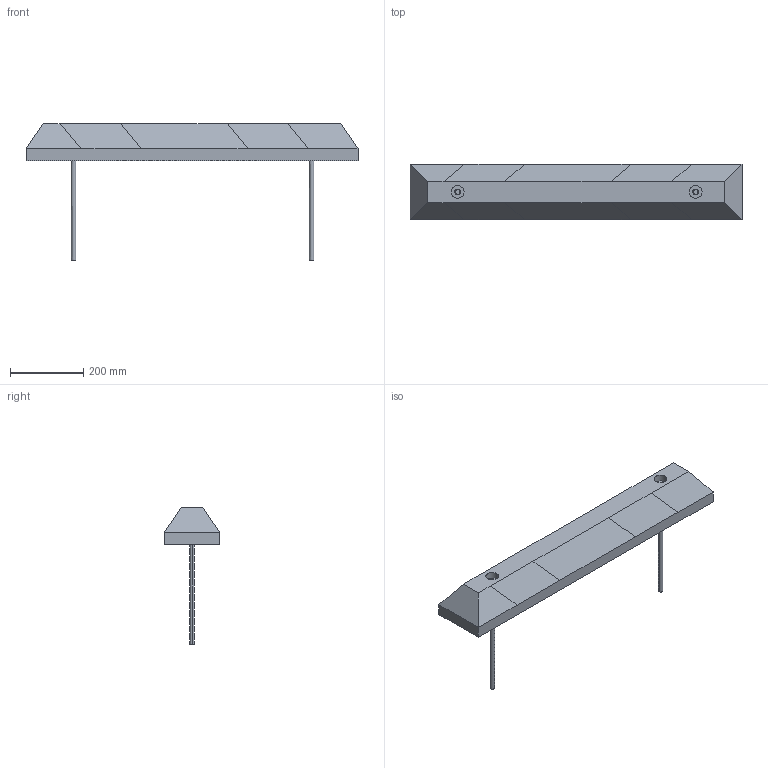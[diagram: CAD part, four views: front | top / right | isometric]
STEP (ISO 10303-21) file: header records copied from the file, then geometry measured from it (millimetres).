
FILE_DESCRIPTION (( 'STEP AP214' ), '1' );
FILE_NAME ('GNR0005 -(3ft parking curb).STEP', '2024-06-10T15:06:56', ( '' ), ( '' ), 'SwSTEP 2.0', 'SolidWorks 2013', '' );
FILE_SCHEMA (( 'AUTOMOTIVE_DESIGN' ));
Length unit declared in the file: inch
Products named in the file (1): GNR0005 -(3ft parking curb)
Bounding box: 908.05 x 152.4 x 374.65 mm (x, y, z)
Volume: 10837137.4 mm3; surface area: 450448 mm2
Topology: 1 solids, 1 shells, 58 faces, 124 edges, 76 vertices
Faces by surface type: plane 42, cylinder 12, cone 4
Entity records: 1710 total; most frequent: DIRECTION 274, CARTESIAN_POINT 259, ORIENTED_EDGE 248, EDGE_CURVE 124, LINE 92, VECTOR 92, AXIS2_PLACEMENT_3D 91, VERTEX_POINT 76
